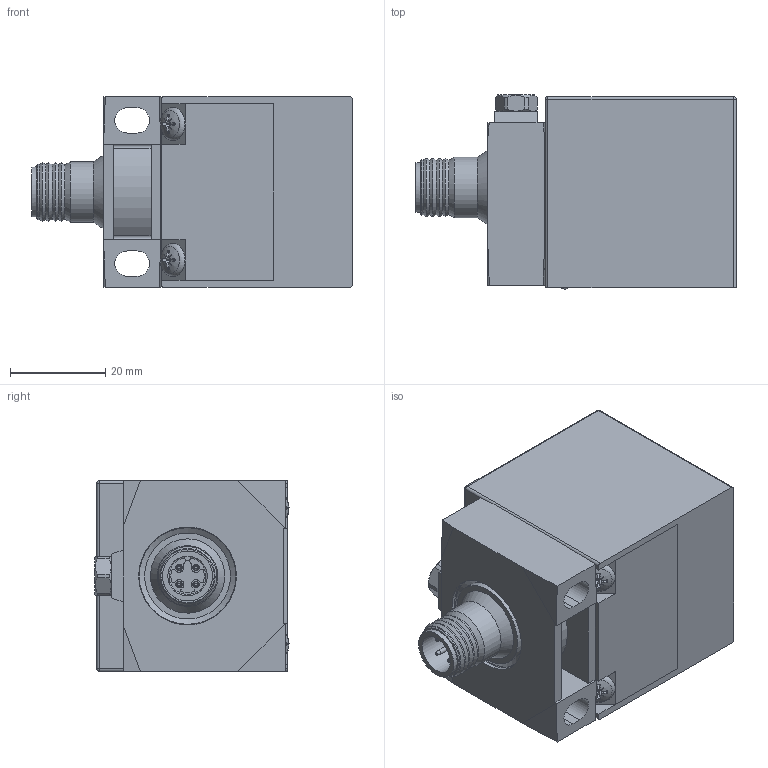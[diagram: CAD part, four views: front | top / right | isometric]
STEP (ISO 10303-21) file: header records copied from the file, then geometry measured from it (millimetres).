
FILE_DESCRIPTION (( 'STEP AP203' ), '1' );
FILE_NAME ('CA40-H1141-BS2_0.step', '2020-08-24T15:15:33', ( '' ), ( '' ), 'SwSTEP 2.0', 'SolidWorks 2019', '' );
FILE_SCHEMA (( 'CONFIG_CONTROL_DESIGN' ));
Length unit declared in the file: millimetre
Products named in the file (1): CA40-H1141-BS2_0
Bounding box: 67.15 x 40.67 x 40 mm (x, y, z)
Volume: 60805 mm3; surface area: 21448.5 mm2
Topology: 1 solids, 11 shells, 308 faces, 759 edges, 483 vertices
Faces by surface type: plane 146, cylinder 81, cone 53, torus 22, sphere 6
Full cylindrical faces by diameter (mm): 1 x8, 3.175 x4, 3.5 x2, 4 x1, 4.8 x3, 5.08 x4, 8.3 x1, 9.4 x1, 10.5 x2, 12.704 x1, 18 x1, 20.5 x1, 22 x1
Entity records: 9383 total; most frequent: CARTESIAN_POINT 2686, DIRECTION 1353, ORIENTED_EDGE 1310, EDGE_CURVE 655, AXIS2_PLACEMENT_3D 543, VERTEX_POINT 453, EDGE_LOOP 404, FACE_OUTER_BOUND 347
